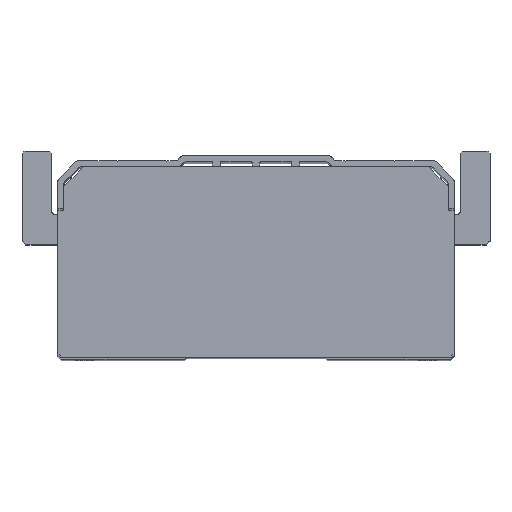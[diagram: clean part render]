
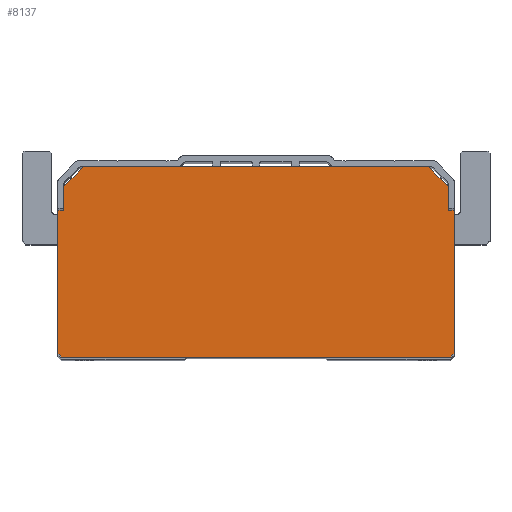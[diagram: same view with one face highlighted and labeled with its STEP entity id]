
A CAD part, top view. The second image highlights one B-rep face of the part: STEP entity #8137.
In plain terms, the highlighted planar face has unit normal (0, 0, 1).
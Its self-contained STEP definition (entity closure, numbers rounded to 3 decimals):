
#295 = LINE ( 'NONE', #6172, #7773 ) ;
#368 = VERTEX_POINT ( 'NONE', #5750 ) ;
#577 = LINE ( 'NONE', #13708, #11582 ) ;
#820 = CARTESIAN_POINT ( 'NONE',  ( 87., 96., 260. ) ) ;
#983 = PLANE ( 'NONE',  #3814 ) ;
#1014 = VERTEX_POINT ( 'NONE', #11838 ) ;
#1397 = VECTOR ( 'NONE', #4445, 1000. ) ;
#1476 = LINE ( 'NONE', #5784, #4300 ) ;
#1587 = LINE ( 'NONE', #2813, #6904 ) ;
#1622 = VERTEX_POINT ( 'NONE', #6870 ) ;
#1790 = VECTOR ( 'NONE', #10484, 1000. ) ;
#1793 = ORIENTED_EDGE ( 'NONE', *, *, #10072, .T. ) ;
#1947 = DIRECTION ( 'NONE',  ( -0.707, 0.707, 0. ) ) ;
#2208 = ORIENTED_EDGE ( 'NONE', *, *, #8130, .T. ) ;
#2298 = VERTEX_POINT ( 'NONE', #820 ) ;
#2587 = CARTESIAN_POINT ( 'NONE',  ( 100., 74., 260. ) ) ;
#2774 = CARTESIAN_POINT ( 'NONE',  ( -100., 74., 260. ) ) ;
#2780 = LINE ( 'NONE', #7052, #8072 ) ;
#2812 = ORIENTED_EDGE ( 'NONE', *, *, #9259, .T. ) ;
#2813 = CARTESIAN_POINT ( 'NONE',  ( -97., 86., 260. ) ) ;
#3127 = CARTESIAN_POINT ( 'NONE',  ( 97., 74., 260. ) ) ;
#3526 = ORIENTED_EDGE ( 'NONE', *, *, #3583, .T. ) ;
#3547 = VECTOR ( 'NONE', #7390, 1000. ) ;
#3583 = EDGE_CURVE ( 'NONE', #11929, #12068, #10638, .T. ) ;
#3622 = CARTESIAN_POINT ( 'NONE',  ( -98., 0., 260. ) ) ;
#3632 = EDGE_CURVE ( 'NONE', #11816, #5104, #1476, .T. ) ;
#3769 = VERTEX_POINT ( 'NONE', #8195 ) ;
#3814 = AXIS2_PLACEMENT_3D ( 'NONE', #3127, #4161, #11631 ) ;
#3845 = EDGE_CURVE ( 'NONE', #1014, #2298, #295, .T. ) ;
#3880 = DIRECTION ( 'NONE',  ( 0., 1., 0. ) ) ;
#4078 = CARTESIAN_POINT ( 'NONE',  ( -87., 96., 260. ) ) ;
#4161 = DIRECTION ( 'NONE',  ( 0., 0., 1. ) ) ;
#4300 = VECTOR ( 'NONE', #11142, 1000. ) ;
#4445 = DIRECTION ( 'NONE',  ( 1., 0., 0. ) ) ;
#4615 = VECTOR ( 'NONE', #12134, 1000. ) ;
#4682 = EDGE_CURVE ( 'NONE', #5447, #1622, #10252, .T. ) ;
#4919 = CARTESIAN_POINT ( 'NONE',  ( 97., 86., 260. ) ) ;
#5037 = CARTESIAN_POINT ( 'NONE',  ( 98., 0., 260. ) ) ;
#5104 = VERTEX_POINT ( 'NONE', #7985 ) ;
#5255 = LINE ( 'NONE', #4078, #8056 ) ;
#5281 = VECTOR ( 'NONE', #9155, 1000. ) ;
#5447 = VERTEX_POINT ( 'NONE', #2587 ) ;
#5521 = ORIENTED_EDGE ( 'NONE', *, *, #6262, .T. ) ;
#5567 = EDGE_CURVE ( 'NONE', #1622, #1014, #13449, .T. ) ;
#5750 = CARTESIAN_POINT ( 'NONE',  ( -100., 74., 260. ) ) ;
#5784 = CARTESIAN_POINT ( 'NONE',  ( -97., 86., 260. ) ) ;
#5955 = DIRECTION ( 'NONE',  ( -1., 0., 0. ) ) ;
#5964 = EDGE_CURVE ( 'NONE', #3769, #5447, #2780, .T. ) ;
#6172 = CARTESIAN_POINT ( 'NONE',  ( 97., 86., 260. ) ) ;
#6200 = VECTOR ( 'NONE', #5955, 1000. ) ;
#6256 = ORIENTED_EDGE ( 'NONE', *, *, #3632, .T. ) ;
#6262 = EDGE_CURVE ( 'NONE', #2298, #11816, #5255, .T. ) ;
#6479 = ORIENTED_EDGE ( 'NONE', *, *, #5567, .T. ) ;
#6767 = EDGE_LOOP ( 'NONE', ( #6479, #7423, #5521, #6256, #13413, #2812, #7898, #3526, #1793, #2208, #10543, #8914 ) ) ;
#6870 = CARTESIAN_POINT ( 'NONE',  ( 97., 74., 260. ) ) ;
#6904 = VECTOR ( 'NONE', #9153, 1000. ) ;
#6910 = VERTEX_POINT ( 'NONE', #7783 ) ;
#7052 = CARTESIAN_POINT ( 'NONE',  ( 100., 74., 260. ) ) ;
#7384 = EDGE_CURVE ( 'NONE', #5104, #6910, #1587, .T. ) ;
#7389 = LINE ( 'NONE', #9792, #1397 ) ;
#7390 = DIRECTION ( 'NONE',  ( 0., -1., 0. ) ) ;
#7423 = ORIENTED_EDGE ( 'NONE', *, *, #3845, .T. ) ;
#7773 = VECTOR ( 'NONE', #1947, 1000. ) ;
#7783 = CARTESIAN_POINT ( 'NONE',  ( -97., 74., 260. ) ) ;
#7898 = ORIENTED_EDGE ( 'NONE', *, *, #10458, .T. ) ;
#7985 = CARTESIAN_POINT ( 'NONE',  ( -97., 86., 260. ) ) ;
#8056 = VECTOR ( 'NONE', #10452, 1000. ) ;
#8072 = VECTOR ( 'NONE', #3880, 1000. ) ;
#8130 = EDGE_CURVE ( 'NONE', #8812, #3769, #577, .T. ) ;
#8137 = ADVANCED_FACE ( 'NONE', ( #12233 ), #983, .T. ) ;
#8195 = CARTESIAN_POINT ( 'NONE',  ( 100., 2., 260. ) ) ;
#8512 = CARTESIAN_POINT ( 'NONE',  ( -87., 96., 260. ) ) ;
#8524 = LINE ( 'NONE', #13808, #3547 ) ;
#8812 = VERTEX_POINT ( 'NONE', #5037 ) ;
#8889 = CARTESIAN_POINT ( 'NONE',  ( -100., 2., 260. ) ) ;
#8914 = ORIENTED_EDGE ( 'NONE', *, *, #4682, .T. ) ;
#9153 = DIRECTION ( 'NONE',  ( 0., -1., 0. ) ) ;
#9155 = DIRECTION ( 'NONE',  ( 0., 1., 0. ) ) ;
#9259 = EDGE_CURVE ( 'NONE', #6910, #368, #11873, .T. ) ;
#9359 = CARTESIAN_POINT ( 'NONE',  ( 97., 74., 260. ) ) ;
#9466 = DIRECTION ( 'NONE',  ( 0.707, 0.707, 0. ) ) ;
#9753 = CARTESIAN_POINT ( 'NONE',  ( -100., 2., 260. ) ) ;
#9792 = CARTESIAN_POINT ( 'NONE',  ( -98., 0., 260. ) ) ;
#10072 = EDGE_CURVE ( 'NONE', #12068, #8812, #7389, .T. ) ;
#10252 = LINE ( 'NONE', #9359, #1790 ) ;
#10452 = DIRECTION ( 'NONE',  ( -1., 0., 0. ) ) ;
#10458 = EDGE_CURVE ( 'NONE', #368, #11929, #8524, .T. ) ;
#10484 = DIRECTION ( 'NONE',  ( -1., 0., 0. ) ) ;
#10543 = ORIENTED_EDGE ( 'NONE', *, *, #5964, .T. ) ;
#10638 = LINE ( 'NONE', #8889, #4615 ) ;
#11142 = DIRECTION ( 'NONE',  ( -0.707, -0.707, 0. ) ) ;
#11582 = VECTOR ( 'NONE', #9466, 1000. ) ;
#11631 = DIRECTION ( 'NONE',  ( 1., 0., 0. ) ) ;
#11816 = VERTEX_POINT ( 'NONE', #8512 ) ;
#11838 = CARTESIAN_POINT ( 'NONE',  ( 97., 86., 260. ) ) ;
#11873 = LINE ( 'NONE', #2774, #6200 ) ;
#11929 = VERTEX_POINT ( 'NONE', #9753 ) ;
#12068 = VERTEX_POINT ( 'NONE', #3622 ) ;
#12134 = DIRECTION ( 'NONE',  ( 0.707, -0.707, 0. ) ) ;
#12233 = FACE_OUTER_BOUND ( 'NONE', #6767, .T. ) ;
#13413 = ORIENTED_EDGE ( 'NONE', *, *, #7384, .T. ) ;
#13449 = LINE ( 'NONE', #4919, #5281 ) ;
#13708 = CARTESIAN_POINT ( 'NONE',  ( 100., 2., 260. ) ) ;
#13808 = CARTESIAN_POINT ( 'NONE',  ( -100., 74., 260. ) ) ;
